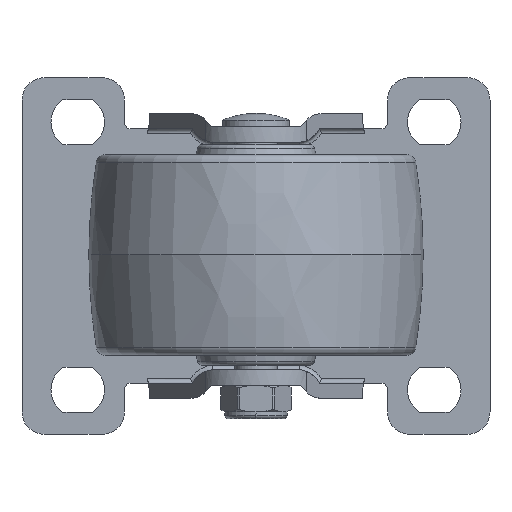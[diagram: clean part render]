
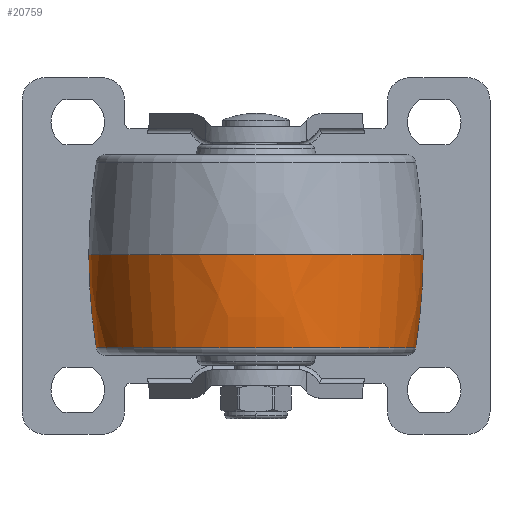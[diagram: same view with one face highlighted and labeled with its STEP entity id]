
A CAD part, front view. The second image highlights one B-rep face of the part: STEP entity #20759.
In plain terms, the highlighted free-form (B-spline) face has degree [3, 3] with [7, 4] control points.
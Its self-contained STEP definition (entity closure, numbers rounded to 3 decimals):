
#11032=CARTESIAN_POINT('',(0.,-92.5,
-0.001));
#11033=DIRECTION('',(0.,0.,-1.));
#11034=DIRECTION('',(-0.16,0.987,0.));
#11035=AXIS2_PLACEMENT_3D('',#11032,#11033,#11034);
#11042=CARTESIAN_POINT('',(-20.82,0.,0.));
#11043=DIRECTION('',(-1.,0.,0.));
#11044=DIRECTION('',(0.,1.,0.));
#11045=AXIS2_PLACEMENT_3D('',#11042,#11043,#11044);
#11047=CARTESIAN_POINT('',(0.,92.5,
0.001));
#11048=DIRECTION('',(0.,0.,1.));
#11049=DIRECTION('',(-0.16,-0.987,0.));
#11050=AXIS2_PLACEMENT_3D('',#11047,#11048,#11049);
#11052=CARTESIAN_POINT('',(0.,0.,0.));
#11053=DIRECTION('',(1.,0.,0.));
#11054=DIRECTION('',(0.,-1.,0.));
#11055=AXIS2_PLACEMENT_3D('',#11052,#11053,#11054);
#19307=CARTESIAN_POINT('',(0.,37.5,
0.));
#19308=VERTEX_POINT('',#19307);
#19309=CARTESIAN_POINT('',(0.,-37.5,
0.));
#19310=VERTEX_POINT('',#19309);
#19311=CARTESIAN_POINT('',(-20.82,35.822,
0.));
#19312=VERTEX_POINT('',#19311);
#19313=CARTESIAN_POINT('',(-20.82,-35.822,
0.));
#19314=VERTEX_POINT('',#19313);
#20723=CARTESIAN_POINT('',(-21.233,-35.684,
2.245));
#20724=CARTESIAN_POINT('',(-14.073,-36.867,
2.319));
#20725=CARTESIAN_POINT('',(-6.839,-37.449,
2.356));
#20726=CARTESIAN_POINT('',(0.418,-37.425,
2.354));
#20727=CARTESIAN_POINT('',(-21.233,-37.065,
-19.715));
#20728=CARTESIAN_POINT('',(-14.073,-38.294,
-20.368));
#20729=CARTESIAN_POINT('',(-6.839,-38.898,
-20.69));
#20730=CARTESIAN_POINT('',(0.418,-38.874,
-20.677));
#20731=CARTESIAN_POINT('',(-21.233,-22.003,
-35.754));
#20732=CARTESIAN_POINT('',(-14.073,-22.732,
-36.94));
#20733=CARTESIAN_POINT('',(-6.839,-23.091,
-37.523));
#20734=CARTESIAN_POINT('',(0.418,-23.077,
-37.499));
#20735=CARTESIAN_POINT('',(-21.233,0.,
-35.754));
#20736=CARTESIAN_POINT('',(-14.073,0.,
-36.94));
#20737=CARTESIAN_POINT('',(-6.839,0.,
-37.523));
#20738=CARTESIAN_POINT('',(0.418,0.,
-37.499));
#20739=CARTESIAN_POINT('',(-21.233,22.003,
-35.754));
#20740=CARTESIAN_POINT('',(-14.073,22.732,
-36.94));
#20741=CARTESIAN_POINT('',(-6.839,23.091,
-37.523));
#20742=CARTESIAN_POINT('',(0.418,23.077,
-37.499));
#20743=CARTESIAN_POINT('',(-21.233,37.065,
-19.715));
#20744=CARTESIAN_POINT('',(-14.073,38.294,
-20.368));
#20745=CARTESIAN_POINT('',(-6.839,38.898,
-20.69));
#20746=CARTESIAN_POINT('',(0.418,38.874,
-20.677));
#20747=CARTESIAN_POINT('',(-21.233,35.684,
2.245));
#20748=CARTESIAN_POINT('',(-14.073,36.867,
2.319));
#20749=CARTESIAN_POINT('',(-6.839,37.449,
2.356));
#20750=CARTESIAN_POINT('',(0.418,37.425,
2.354));
#20751=(BOUNDED_SURFACE()B_SPLINE_SURFACE(3,3,((#20723,#20724,#20725,#20726),(
#20727,#20728,#20729,#20730),(#20731,#20732,#20733,#20734),(#20735,#20736,
#20737,#20738),(#20739,#20740,#20741,#20742),(#20743,#20744,#20745,#20746),(
#20747,#20748,#20749,#20750)),.UNSPECIFIED.,.F.,.F.,.F.)B_SPLINE_SURFACE_WITH_KNOTS((4,3,4),(4,4),(0.,1.,2.),(0.,1.),.UNSPECIFIED.)GEOMETRIC_REPRESENTATION_ITEM()RATIONAL_B_SPLINE_SURFACE(((1.189,1.187,
1.187,1.189),(0.939,0.937,
0.937,0.939),(0.939,0.937,
0.937,0.939),(1.189,1.187,
1.187,1.189),(0.939,0.937,
0.937,0.939),(0.939,0.937,
0.937,0.939),(1.189,1.187,
1.187,1.189)))REPRESENTATION_ITEM('')SURFACE());
#20752=ORIENTED_EDGE('',*,*,#20713,.F.);
#20754=ORIENTED_EDGE('',*,*,#20753,.T.);
#20755=ORIENTED_EDGE('',*,*,#20716,.T.);
#20756=ORIENTED_EDGE('',*,*,#20639,.T.);
#20757=EDGE_LOOP('',(#20752,#20754,#20755,#20756));
#20758=FACE_OUTER_BOUND('',#20757,.F.);
#11036=CIRCLE('',#11035,130.);
#11046=CIRCLE('',#11045,35.822);
#11051=CIRCLE('',#11050,130.);
#11056=CIRCLE('',#11055,37.5);
#20639=EDGE_CURVE('',#19310,#19308,#11056,.T.);
#20713=EDGE_CURVE('',#19312,#19308,#11036,.T.);
#20716=EDGE_CURVE('',#19314,#19310,#11051,.T.);
#20753=EDGE_CURVE('',#19312,#19314,#11046,.T.);
#20759=ADVANCED_FACE('',(#20758),#20751,.T.);
